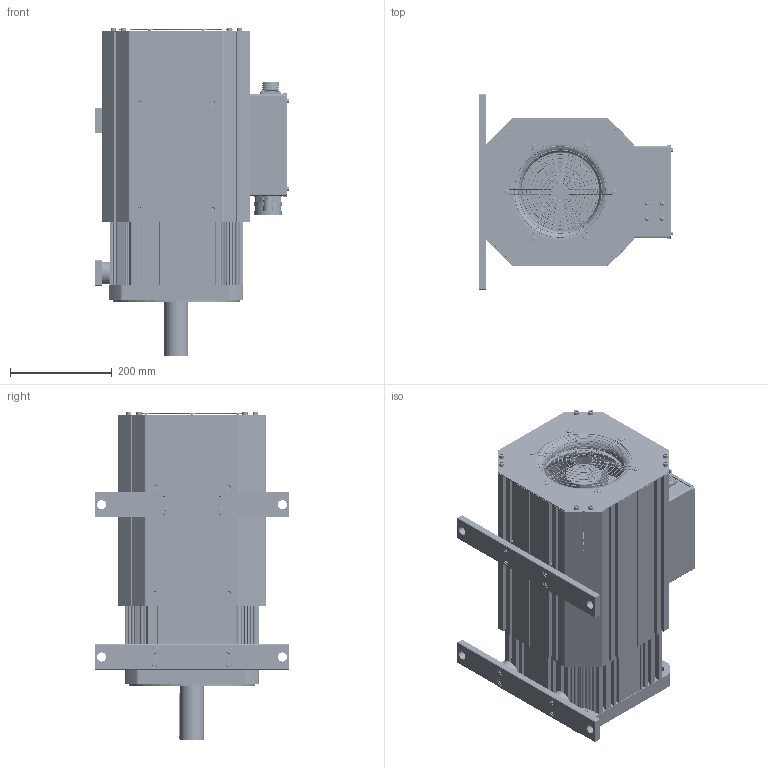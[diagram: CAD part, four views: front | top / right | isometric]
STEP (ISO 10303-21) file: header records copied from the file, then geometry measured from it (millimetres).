
FILE_DESCRIPTION((''),'2;1');
FILE_NAME('IMS20A-26M41D20C-4-XXF-A_ASM','2023-06-05T13:44:27',('admin'),(''),'CREO PARAMETRIC BY PTC INC, 2019080','CREO PARAMETRIC BY PTC INC, 2019080','');
FILE_SCHEMA(('CONFIG_CONTROL_DESIGN'));
Products named in the file (92): JK_K187_10200-99102_6_1_1; DZZZ_K187_80200-06007_ASM_5_ASM_ASM; ZZ_K187_12400-18019_11_1_1; PHH_250_20100-09010_5_1_1; ZC_Q_250_30400-02003_2_1_1; ZC_H_250_30400-00001_2_1_1; ZCZDQ_250_11200-01002_5_1_1; QDG_250_10600-02003_4_1_1; ZCYG_250_10900-01002_2_1_1; O_240_50000-04005_4_1_1; M8X45_3_1_1; ZZZJ_K187_80500-06007_ASM_16_AS_ASM; M10X40_4_1_1; HDG_250_21200-01002_3_1_1; O_220_50000-05006_2_1_1; XB-2_J52XFW975J_40700-00001_1_1; XB-1_J52XFW975J_40700-00001_1_1; XBYB_J52_11700-00001_2_1_1; XBYM_J52_11000-00001_2_1_1; M4X10_2_1_1; M5X35_3_1_1; HGMB_250_21600-02003_3_1_1; CDLD_5X10_2_1_1; FJ_250_40000-01002_3_1_1; FJGDB_250_11400-02003_2_1_1; CTLD_4X8_2_1_1; FJZJ_250_80700-01002_ASM_4_ASM__ASM; FDB_L_K187_12900-76077_5_1_1; FDB_Y_K187_12900-76077_4_1_1; FDB_K187_12900-76077_3_1_1; FDB_0_K187_12900-76077_3_1_1; FDB_K187_12900-76077_ASM_10_ASM_ASM; M6X20_NO_1_1_1; FJFHB_250_11100-01002_4_1_1; DFQ_250_30700-00001_2_1_1; FHW_250_30500-01002_2_1_1_1; FHW_250_30500-01002_2_2_1_1; FHW_250_30500-01002_2_3_1_1; FHW_250_30500-01002_2_4_1_1; FHW_250_30500-01002_2_5_1_1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
Assembly tree (194 placements, depth 7):
  IMS20A-26M41D20C-4-XXF-A_ASM
    IMS26A-26M41D20C-4-XXF-A__ASM_1_ASM
      K122F23C25P_ASM_ASM_1_ASM_1_ASM
        K208F15C25P_ASM_1_ASM_1_ASM_1_ASM
          DZZZ_K187_80200-06007_ASM_5_ASM_ASM
            JK_K187_10200-99102_6_1_1
          ZZZJ_K187_80500-06007_ASM_16_AS_ASM
            ZZ_K187_12400-18019_11_1_1
            PHH_250_20100-09010_5_1_1
            ZC_Q_250_30400-02003_2_1_1
            ZC_H_250_30400-00001_2_1_1
            ZCZDQ_250_11200-01002_5_1_1
            QDG_250_10600-02003_4_1_1
            ZCYG_250_10900-01002_2_1_1
            O_240_50000-04005_4_1_1
            M8X45_3_1_1  x4
          M10X40_4_1_1  x16
          HDG_250_21200-01002_3_1_1
          O_240_50000-04005_4_1_1
          O_220_50000-05006_2_1_1
          XB-2_J52XFW975J_40700-00001_1_1
          XB-1_J52XFW975J_40700-00001_1_1
          XBYB_J52_11700-00001_2_1_1  x2
          XBYM_J52_11000-00001_2_1_1
          M4X10_2_1_1  x10
          M5X35_3_1_1
          HGMB_250_21600-02003_3_1_1
          CDLD_5X10_2_1_1  x6
          FJZJ_250_80700-01002_ASM_4_ASM__ASM
            FJ_250_40000-01002_3_1_1
            FJGDB_250_11400-02003_2_1_1
            CTLD_4X8_2_1_1  x4
          FDB_K187_12900-76077_ASM_10_ASM_ASM
            FDB_L_K187_12900-76077_5_1_1
            FDB_Y_K187_12900-76077_4_1_1
            FDB_K187_12900-76077_3_1_1  x3
            FDB_0_K187_12900-76077_3_1_1  x3
          M6X20_NO_1_1_1  x16
          FJFHBZJ_250_80800-01002_ASM_7_A_ASM
            FJFHB_250_11100-01002_4_1_1
            DFQ_250_30700-00001_2_1_1
            FHW_250_30500-01002_2_ASM_1_ASM_ASM
              FHW_250_30500-01002_2_1_1_1
              FHW_250_30500-01002_2_2_1_1
              FHW_250_30500-01002_2_3_1_1
              FHW_250_30500-01002_2_4_1_1
              FHW_250_30500-01002_2_5_1_1
              FHW_250_30500-01002_2_6_1_1
              FHW_250_30500-01002_2_7_1_1
              FHW_250_30500-01002_2_8_1_1
              FHW_250_30500-01002_2_9_1_1
              FHW_250_30500-01002_2_10_1_1
              FHW_250_30500-01002_2_11_1_1
              FHW_250_30500-01002_2_12_1_1
              FHW_250_30500-01002_2_13_1_1
              FHW_250_30500-01002_2_14_1_1
              FHW_250_30500-01002_2_15_1_1
              FHW_250_30500-01002_2_16_1_1
            PDQ_4_KB_2_1_1  x6
            MD_4X12_4_1_1  x6
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Bounding box: 382.69 x 384 x 647 mm (x, y, z)
Volume: 14267083.2 mm3; surface area: 4547258.1 mm2
Topology: 180 solids, 234 shells, 8531 faces, 23865 edges, 15991 vertices
Faces by surface type: plane 4692, cylinder 2583, torus 506, cone 478, bspline 240, sphere 32
Entity records: 200022 total; most frequent: CARTESIAN_POINT 47396, DIRECTION 32428, ORIENTED_EDGE 31654, EDGE_CURVE 15941, AXIS2_PLACEMENT_3D 11786, VERTEX_POINT 10744, VECTOR 8856, LINE 8856
